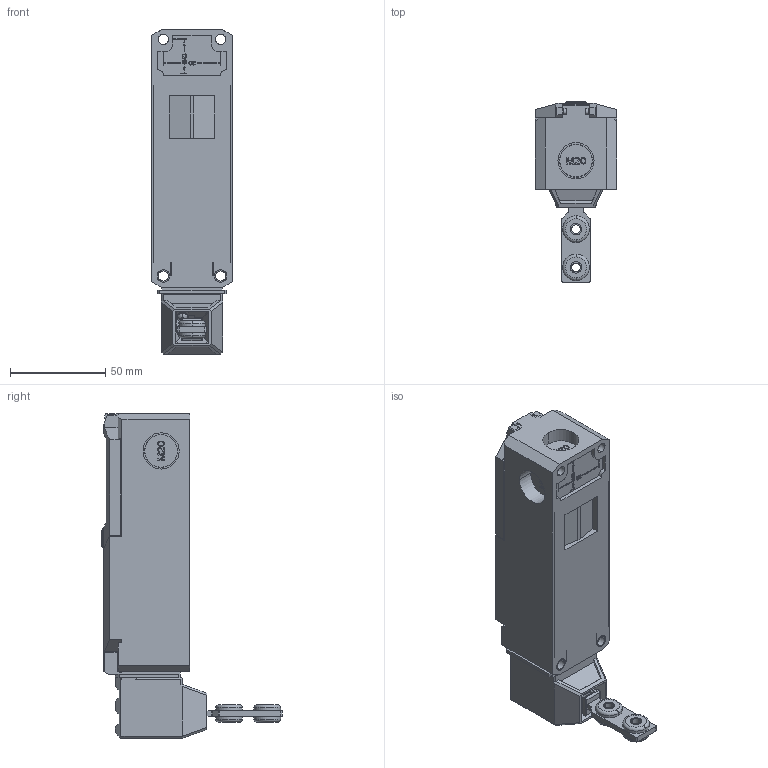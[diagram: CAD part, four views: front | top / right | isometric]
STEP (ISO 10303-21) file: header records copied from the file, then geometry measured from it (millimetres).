
FILE_DESCRIPTION((''),'2;1');
FILE_NAME('2015406_ASM','2014-03-24T',('lwegerer'),(''),'PRO/ENGINEER BY PARAMETRIC TECHNOLOGY CORPORATION, 2011040','PRO/ENGINEER BY PARAMETRIC TECHNOLOGY CORPORATION, 2011040','');
FILE_SCHEMA(('AUTOMOTIVE_DESIGN_CC2 { 1 2 10303 214 -1 1 5 2 }'));
Products named in the file (4): 2015385; 2015387; 2015388; 2015406_ASM
Assembly tree (3 placements, depth 2):
  2015406_ASM
    2015385
    2015387
    2015388
Bounding box: 42.5 x 94.4 x 170 mm (x, y, z)
Volume: 129682.2 mm3; surface area: 98037.2 mm2
Topology: 5 solids, 7 shells, 2291 faces, 6367 edges, 4121 vertices
Faces by surface type: plane 1708, cylinder 421, torus 67, cone 57, sphere 25, bspline 9, extrusion 4
Entity records: 107321 total; most frequent: CARTESIAN_POINT 13789, ORIENTED_EDGE 12656, DIRECTION 11886, PRESENTATION_STYLE_ASSIGNMENT 8456, STYLED_ITEM 6350, CURVE_STYLE 6345, EDGE_CURVE 6328, VECTOR 5086
